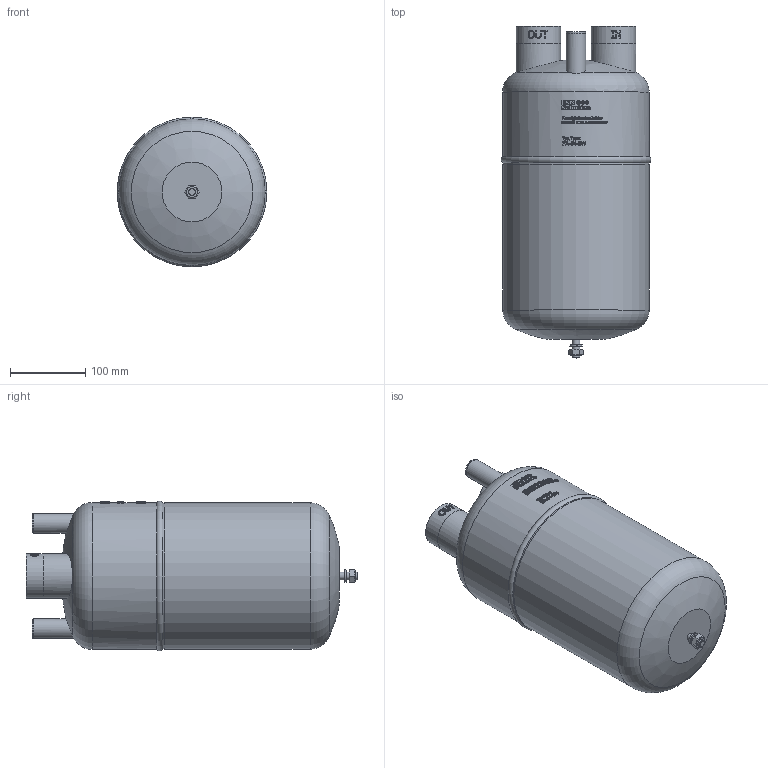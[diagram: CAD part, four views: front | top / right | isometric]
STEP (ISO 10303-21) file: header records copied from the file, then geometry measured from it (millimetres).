
FILE_DESCRIPTION(/* description */ (''),/* implementation_level */ '2;1');
FILE_NAME(/* name */ 'P:\FA\FA-54-9W\FA-54-9W.stp',/* time_stamp */ '2017-10-05T07:56:56+02:00',/* author */ ('neufeld'),/* organization */ (''),/* preprocessor_version */ 'ST-DEVELOPER v16.1',/* originating_system */ 'Autodesk Inventor 2016',/* authorisation */ '');
FILE_SCHEMA (('AUTOMOTIVE_DESIGN { 1 0 10303 214 3 1 1 }'));
Products named in the file (2): FA-54-9W; FA-54-9W_1
Assembly tree (1 placements, depth 2):
  FA-54-9W_1
    FA-54-9W
Bounding box: 199.5 x 442.29 x 199.5 mm (x, y, z)
Volume: 10623151.2 mm3; surface area: 304410.6 mm2
Topology: 3 solids, 3 shells, 1306 faces, 3537 edges, 2354 vertices
Faces by surface type: plane 708, bspline 456, cylinder 126, cone 9, torus 6, sphere 1
Full cylindrical faces by diameter (mm): 10 x2, 22.4 x2, 25.4 x2, 26 x2, 54.3 x2, 59 x2, 59.5 x2, 195 x1, 195.5 x1
Entity records: 50719 total; most frequent: CARTESIAN_POINT 20205, ORIENTED_EDGE 7002, DIRECTION 5195, EDGE_CURVE 3501, VERTEX_POINT 2347, AXIS2_PLACEMENT_3D 1772, LINE 1651, VECTOR 1651
